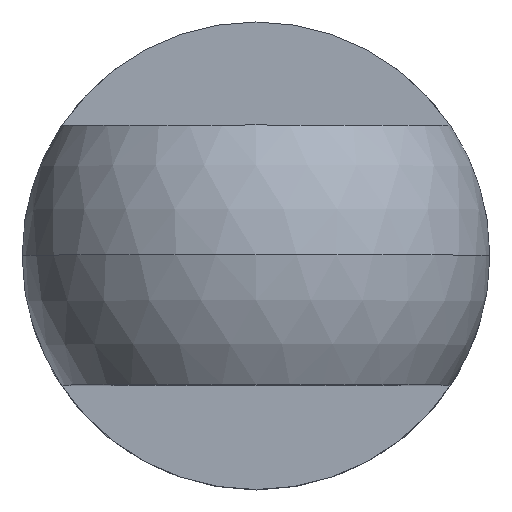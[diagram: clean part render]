
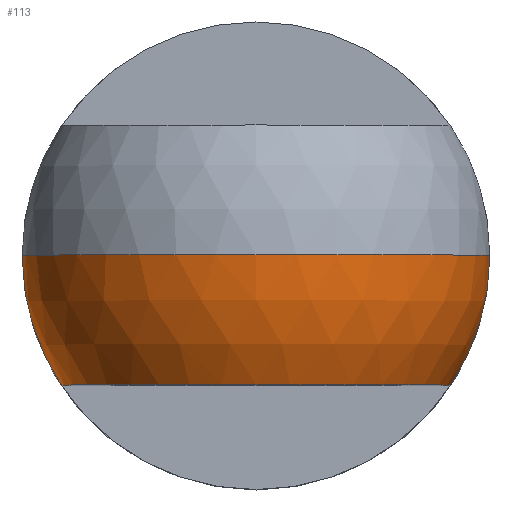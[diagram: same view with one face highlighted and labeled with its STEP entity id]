
A CAD part, top view. The second image highlights one B-rep face of the part: STEP entity #113.
In plain terms, the highlighted spherical face has radius 9 mm.
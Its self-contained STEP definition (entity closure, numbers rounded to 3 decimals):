
#7 = ORIENTED_EDGE ( 'NONE', *, *, #475, .F. ) ;
#22 = VERTEX_POINT ( 'NONE', #230 ) ;
#57 = CIRCLE ( 'NONE', #298, 9. ) ;
#75 = DIRECTION ( 'NONE',  ( 0., -1., 0. ) ) ;
#82 = CARTESIAN_POINT ( 'NONE',  ( 0., 0., 22. ) ) ;
#93 = ORIENTED_EDGE ( 'NONE', *, *, #332, .T. ) ;
#94 = CARTESIAN_POINT ( 'NONE',  ( -7.483, -5., 22. ) ) ;
#111 = EDGE_CURVE ( 'NONE', #319, #309, #297, .T. ) ;
#113 = ADVANCED_FACE ( 'NONE', ( #412 ), #248, .T. ) ;
#114 = CARTESIAN_POINT ( 'NONE',  ( 7.483, -5., 22. ) ) ;
#135 = AXIS2_PLACEMENT_3D ( 'NONE', #190, #657, #407 ) ;
#144 = ORIENTED_EDGE ( 'NONE', *, *, #111, .F. ) ;
#157 = CIRCLE ( 'NONE', #499, 7.483 ) ;
#190 = CARTESIAN_POINT ( 'NONE',  ( 0., 0., 22. ) ) ;
#199 = CARTESIAN_POINT ( 'NONE',  ( 0., -5., 22. ) ) ;
#207 = VERTEX_POINT ( 'NONE', #353 ) ;
#230 = CARTESIAN_POINT ( 'NONE',  ( 9., 0., 22. ) ) ;
#233 = CARTESIAN_POINT ( 'NONE',  ( 0., 0., 22. ) ) ;
#248 = SPHERICAL_SURFACE ( 'NONE', #386, 9. ) ;
#251 = ORIENTED_EDGE ( 'NONE', *, *, #270, .T. ) ;
#267 = DIRECTION ( 'NONE',  ( 0., 1., 0. ) ) ;
#270 = EDGE_CURVE ( 'NONE', #207, #309, #295, .T. ) ;
#275 = CARTESIAN_POINT ( 'NONE',  ( 0., 0., 22. ) ) ;
#290 = DIRECTION ( 'NONE',  ( 0., 0., -1. ) ) ;
#294 = DIRECTION ( 'NONE',  ( -1., 0., 0. ) ) ;
#295 = CIRCLE ( 'NONE', #135, 9. ) ;
#297 = CIRCLE ( 'NONE', #582, 9. ) ;
#298 = AXIS2_PLACEMENT_3D ( 'NONE', #275, #324, #486 ) ;
#309 = VERTEX_POINT ( 'NONE', #462 ) ;
#315 = ORIENTED_EDGE ( 'NONE', *, *, #606, .F. ) ;
#319 = VERTEX_POINT ( 'NONE', #94 ) ;
#324 = DIRECTION ( 'NONE',  ( 0., 1., 0. ) ) ;
#332 = EDGE_CURVE ( 'NONE', #319, #664, #157, .T. ) ;
#353 = CARTESIAN_POINT ( 'NONE',  ( 0., 0., 31. ) ) ;
#386 = AXIS2_PLACEMENT_3D ( 'NONE', #233, #75, #400 ) ;
#390 = CIRCLE ( 'NONE', #599, 9. ) ;
#400 = DIRECTION ( 'NONE',  ( 1., 0., 0. ) ) ;
#407 = DIRECTION ( 'NONE',  ( 1., 0., 0. ) ) ;
#412 = FACE_OUTER_BOUND ( 'NONE', #575, .T. ) ;
#419 = DIRECTION ( 'NONE',  ( 0., 0., 1. ) ) ;
#462 = CARTESIAN_POINT ( 'NONE',  ( -9., 0., 22. ) ) ;
#475 = EDGE_CURVE ( 'NONE', #207, #22, #57, .T. ) ;
#486 = DIRECTION ( 'NONE',  ( 0., 0., 1. ) ) ;
#499 = AXIS2_PLACEMENT_3D ( 'NONE', #199, #267, #419 ) ;
#545 = DIRECTION ( 'NONE',  ( -1., 0., 0. ) ) ;
#575 = EDGE_LOOP ( 'NONE', ( #7, #251, #144, #93, #315 ) ) ;
#582 = AXIS2_PLACEMENT_3D ( 'NONE', #82, #598, #294 ) ;
#585 = CARTESIAN_POINT ( 'NONE',  ( 0., 0., 22. ) ) ;
#598 = DIRECTION ( 'NONE',  ( 0., 0., -1. ) ) ;
#599 = AXIS2_PLACEMENT_3D ( 'NONE', #585, #290, #545 ) ;
#606 = EDGE_CURVE ( 'NONE', #22, #664, #390, .T. ) ;
#657 = DIRECTION ( 'NONE',  ( 0., -1., 0. ) ) ;
#664 = VERTEX_POINT ( 'NONE', #114 ) ;
